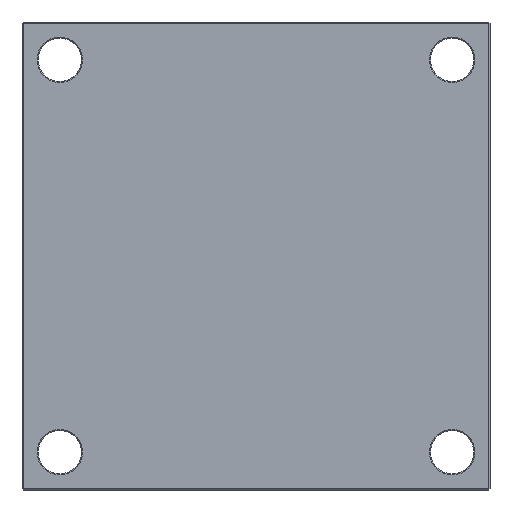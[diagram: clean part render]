
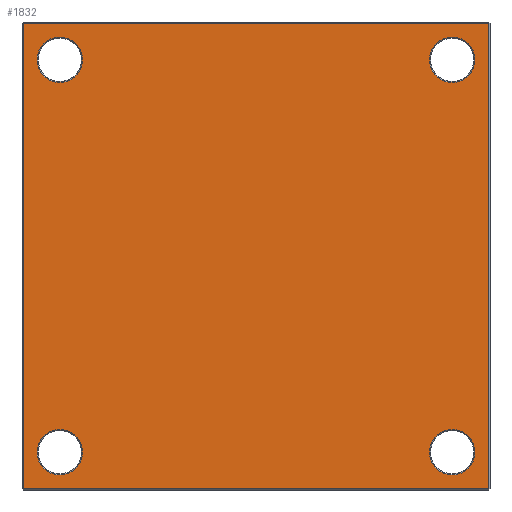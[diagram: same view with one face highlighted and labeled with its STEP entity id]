
A CAD part, front view. The second image highlights one B-rep face of the part: STEP entity #1832.
In plain terms, the highlighted planar face has unit normal (0, -1, 0).
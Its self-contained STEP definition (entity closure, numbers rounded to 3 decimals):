
#41 = DIRECTION ( 'NONE',  ( 0., 0., 1. ) ) ;
#58 = AXIS2_PLACEMENT_3D ( 'NONE', #1199, #1165, #1149 ) ;
#69 = AXIS2_PLACEMENT_3D ( 'NONE', #2180, #2175, #439 ) ;
#74 = AXIS2_PLACEMENT_3D ( 'NONE', #94, #76, #41 ) ;
#76 = DIRECTION ( 'NONE',  ( 0., 1., 0. ) ) ;
#77 = AXIS2_PLACEMENT_3D ( 'NONE', #224, #687, #1632 ) ;
#94 = CARTESIAN_POINT ( 'NONE',  ( 187., 0., 187. ) ) ;
#95 = ORIENTED_EDGE ( 'NONE', *, *, #312, .T. ) ;
#121 = VECTOR ( 'NONE', #587, 1000. ) ;
#176 = AXIS2_PLACEMENT_3D ( 'NONE', #764, #781, #759 ) ;
#185 = EDGE_LOOP ( 'NONE', ( #2060, #1811 ) ) ;
#211 = ORIENTED_EDGE ( 'NONE', *, *, #320, .T. ) ;
#224 = CARTESIAN_POINT ( 'NONE',  ( -187., 0., 187. ) ) ;
#230 = CIRCLE ( 'NONE', #1023, 21.65 ) ;
#261 = FACE_OUTER_BOUND ( 'NONE', #1937, .T. ) ;
#312 = EDGE_CURVE ( 'NONE', #1081, #745, #1401, .T. ) ;
#315 = EDGE_CURVE ( 'NONE', #2098, #1081, #1804, .T. ) ;
#320 = EDGE_CURVE ( 'NONE', #1784, #2098, #2179, .T. ) ;
#322 = EDGE_CURVE ( 'NONE', #745, #1784, #449, .T. ) ;
#327 = EDGE_CURVE ( 'NONE', #578, #1786, #1350, .T. ) ;
#329 = EDGE_CURVE ( 'NONE', #529, #2057, #518, .T. ) ;
#330 = CARTESIAN_POINT ( 'NONE',  ( -187., 0., -208.65 ) ) ;
#331 = EDGE_CURVE ( 'NONE', #1812, #583, #1711, .T. ) ;
#336 = EDGE_CURVE ( 'NONE', #403, #1856, #2075, .T. ) ;
#403 = VERTEX_POINT ( 'NONE', #524 ) ;
#439 = DIRECTION ( 'NONE',  ( 0., 0., 1. ) ) ;
#449 = LINE ( 'NONE', #1095, #121 ) ;
#518 = CIRCLE ( 'NONE', #74, 21.65 ) ;
#524 = CARTESIAN_POINT ( 'NONE',  ( -187., 0., -165.35 ) ) ;
#529 = VERTEX_POINT ( 'NONE', #2160 ) ;
#576 = VECTOR ( 'NONE', #1426, 1000. ) ;
#578 = VERTEX_POINT ( 'NONE', #1480 ) ;
#583 = VERTEX_POINT ( 'NONE', #1488 ) ;
#587 = DIRECTION ( 'NONE',  ( 0., 0., 1. ) ) ;
#594 = EDGE_LOOP ( 'NONE', ( #1234, #643 ) ) ;
#619 = CARTESIAN_POINT ( 'NONE',  ( 187., 0., 165.35 ) ) ;
#626 = CARTESIAN_POINT ( 'NONE',  ( -222., 0., 222. ) ) ;
#643 = ORIENTED_EDGE ( 'NONE', *, *, #327, .T. ) ;
#683 = CIRCLE ( 'NONE', #2167, 21.65 ) ;
#687 = DIRECTION ( 'NONE',  ( 0., 1., 0. ) ) ;
#690 = CARTESIAN_POINT ( 'NONE',  ( -222., 0., -222. ) ) ;
#732 = DIRECTION ( 'NONE',  ( -1., 0., 0. ) ) ;
#745 = VERTEX_POINT ( 'NONE', #1205 ) ;
#755 = FACE_BOUND ( 'NONE', #1242, .T. ) ;
#759 = DIRECTION ( 'NONE',  ( 0., 0., 1. ) ) ;
#764 = CARTESIAN_POINT ( 'NONE',  ( -187., 0., -187. ) ) ;
#781 = DIRECTION ( 'NONE',  ( 0., 1., 0. ) ) ;
#868 = CARTESIAN_POINT ( 'NONE',  ( 0., 0., 222. ) ) ;
#912 = VECTOR ( 'NONE', #732, 1000. ) ;
#963 = VECTOR ( 'NONE', #1193, 1000. ) ;
#973 = EDGE_CURVE ( 'NONE', #1856, #403, #2047, .T. ) ;
#989 = EDGE_CURVE ( 'NONE', #583, #1812, #230, .T. ) ;
#1008 = EDGE_CURVE ( 'NONE', #2057, #529, #683, .T. ) ;
#1018 = DIRECTION ( 'NONE',  ( 0., 0., 1. ) ) ;
#1023 = AXIS2_PLACEMENT_3D ( 'NONE', #1271, #2157, #1839 ) ;
#1027 = CARTESIAN_POINT ( 'NONE',  ( 0., 0., 0. ) ) ;
#1042 = EDGE_CURVE ( 'NONE', #1786, #578, #1747, .T. ) ;
#1081 = VERTEX_POINT ( 'NONE', #690 ) ;
#1095 = CARTESIAN_POINT ( 'NONE',  ( 222., 0., 0. ) ) ;
#1121 = ORIENTED_EDGE ( 'NONE', *, *, #1008, .T. ) ;
#1149 = DIRECTION ( 'NONE',  ( 0., 0., 1. ) ) ;
#1165 = DIRECTION ( 'NONE',  ( 0., 1., 0. ) ) ;
#1189 = PLANE ( 'NONE',  #1467 ) ;
#1193 = DIRECTION ( 'NONE',  ( 1., 0., 0. ) ) ;
#1199 = CARTESIAN_POINT ( 'NONE',  ( -187., 0., -187. ) ) ;
#1205 = CARTESIAN_POINT ( 'NONE',  ( 222., 0., -222. ) ) ;
#1234 = ORIENTED_EDGE ( 'NONE', *, *, #1042, .T. ) ;
#1242 = EDGE_LOOP ( 'NONE', ( #1121, #1666 ) ) ;
#1258 = CARTESIAN_POINT ( 'NONE',  ( -222., 0., 0. ) ) ;
#1271 = CARTESIAN_POINT ( 'NONE',  ( 187., 0., -187. ) ) ;
#1307 = CARTESIAN_POINT ( 'NONE',  ( 0., 0., -222. ) ) ;
#1350 = CIRCLE ( 'NONE', #77, 21.65 ) ;
#1401 = LINE ( 'NONE', #1307, #963 ) ;
#1426 = DIRECTION ( 'NONE',  ( 0., 0., -1. ) ) ;
#1467 = AXIS2_PLACEMENT_3D ( 'NONE', #1027, #1482, #1018 ) ;
#1480 = CARTESIAN_POINT ( 'NONE',  ( -187., 0., 208.65 ) ) ;
#1482 = DIRECTION ( 'NONE',  ( 0., 1., 0. ) ) ;
#1488 = CARTESIAN_POINT ( 'NONE',  ( 187., 0., -208.65 ) ) ;
#1554 = FACE_BOUND ( 'NONE', #594, .T. ) ;
#1632 = DIRECTION ( 'NONE',  ( 0., 0., 1. ) ) ;
#1656 = CARTESIAN_POINT ( 'NONE',  ( 187., 0., -165.35 ) ) ;
#1666 = ORIENTED_EDGE ( 'NONE', *, *, #329, .T. ) ;
#1696 = DIRECTION ( 'NONE',  ( 0., 1., 0. ) ) ;
#1702 = DIRECTION ( 'NONE',  ( 0., 0., 1. ) ) ;
#1708 = CARTESIAN_POINT ( 'NONE',  ( -187., 0., 187. ) ) ;
#1711 = CIRCLE ( 'NONE', #69, 21.65 ) ;
#1714 = ORIENTED_EDGE ( 'NONE', *, *, #315, .T. ) ;
#1734 = DIRECTION ( 'NONE',  ( 0., 1., 0. ) ) ;
#1737 = ORIENTED_EDGE ( 'NONE', *, *, #989, .T. ) ;
#1741 = DIRECTION ( 'NONE',  ( 0., 0., 1. ) ) ;
#1747 = CIRCLE ( 'NONE', #2056, 21.65 ) ;
#1758 = ORIENTED_EDGE ( 'NONE', *, *, #331, .T. ) ;
#1784 = VERTEX_POINT ( 'NONE', #2105 ) ;
#1786 = VERTEX_POINT ( 'NONE', #2097 ) ;
#1804 = LINE ( 'NONE', #1258, #576 ) ;
#1811 = ORIENTED_EDGE ( 'NONE', *, *, #336, .T. ) ;
#1812 = VERTEX_POINT ( 'NONE', #1656 ) ;
#1832 = ADVANCED_FACE ( 'NONE', ( #2065, #1970, #755, #1554, #261 ), #1189, .F. ) ;
#1839 = DIRECTION ( 'NONE',  ( 0., 0., 1. ) ) ;
#1856 = VERTEX_POINT ( 'NONE', #330 ) ;
#1937 = EDGE_LOOP ( 'NONE', ( #1961, #211, #1714, #95 ) ) ;
#1961 = ORIENTED_EDGE ( 'NONE', *, *, #322, .T. ) ;
#1964 = EDGE_LOOP ( 'NONE', ( #1737, #1758 ) ) ;
#1970 = FACE_BOUND ( 'NONE', #1964, .T. ) ;
#1993 = CARTESIAN_POINT ( 'NONE',  ( 187., 0., 187. ) ) ;
#2047 = CIRCLE ( 'NONE', #176, 21.65 ) ;
#2056 = AXIS2_PLACEMENT_3D ( 'NONE', #1708, #1696, #1702 ) ;
#2057 = VERTEX_POINT ( 'NONE', #619 ) ;
#2060 = ORIENTED_EDGE ( 'NONE', *, *, #973, .T. ) ;
#2065 = FACE_BOUND ( 'NONE', #185, .T. ) ;
#2075 = CIRCLE ( 'NONE', #58, 21.65 ) ;
#2097 = CARTESIAN_POINT ( 'NONE',  ( -187., 0., 165.35 ) ) ;
#2098 = VERTEX_POINT ( 'NONE', #626 ) ;
#2105 = CARTESIAN_POINT ( 'NONE',  ( 222., 0., 222. ) ) ;
#2157 = DIRECTION ( 'NONE',  ( 0., 1., 0. ) ) ;
#2160 = CARTESIAN_POINT ( 'NONE',  ( 187., 0., 208.65 ) ) ;
#2167 = AXIS2_PLACEMENT_3D ( 'NONE', #1993, #1734, #1741 ) ;
#2175 = DIRECTION ( 'NONE',  ( 0., 1., 0. ) ) ;
#2179 = LINE ( 'NONE', #868, #912 ) ;
#2180 = CARTESIAN_POINT ( 'NONE',  ( 187., 0., -187. ) ) ;
